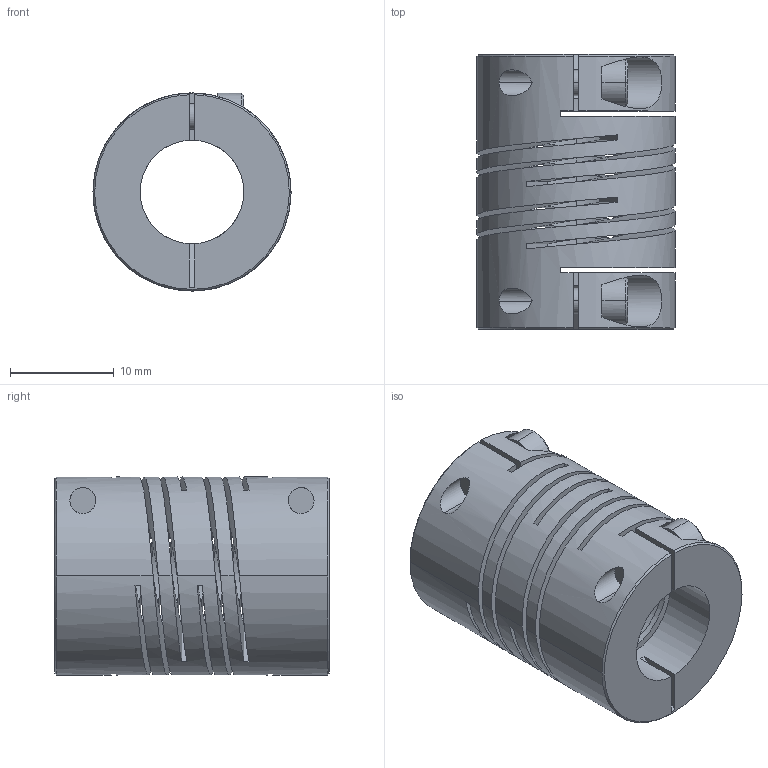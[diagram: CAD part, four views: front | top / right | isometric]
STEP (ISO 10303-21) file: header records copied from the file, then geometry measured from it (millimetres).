
FILE_DESCRIPTION((''),'2;1');
FILE_NAME('727_19','2006-12-05T',('Gary Melling'),(''),'PRO/ENGINEER BY PARAMETRIC TECHNOLOGY CORPORATION, 2006240','PRO/ENGINEER BY PARAMETRIC TECHNOLOGY CORPORATION, 2006240','');
FILE_SCHEMA(('CONFIG_CONTROL_DESIGN'));
Length unit declared in the file: millimetre
Products named in the file (1): 727_19
Bounding box: 19.1 x 26.5 x 19.1 mm (x, y, z)
Volume: 4589.7 mm3; surface area: 5300.3 mm2
Topology: 1 solids, 1 shells, 106 faces, 318 edges, 208 vertices
Faces by surface type: plane 58, cylinder 30, bspline 12, cone 6
Entity records: 5390 total; most frequent: CARTESIAN_POINT 2576, ORIENTED_EDGE 636, DIRECTION 500, EDGE_CURVE 318, VERTEX_POINT 208, VECTOR 180, LINE 180, AXIS2_PLACEMENT_3D 160
